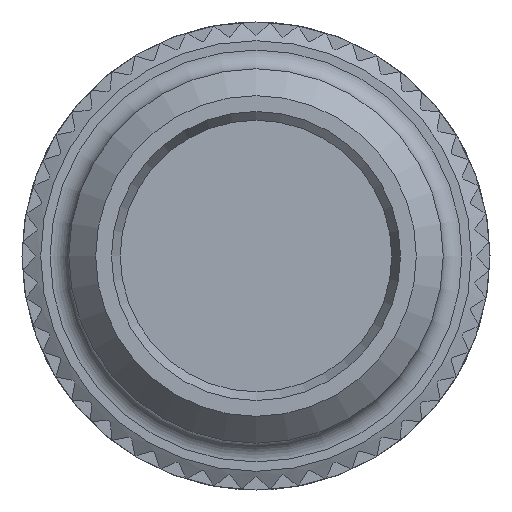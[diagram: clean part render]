
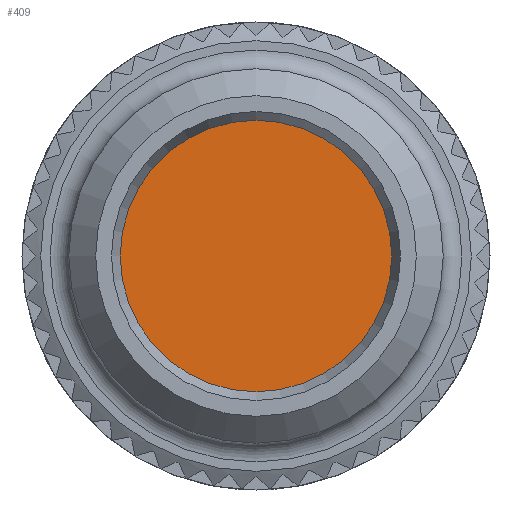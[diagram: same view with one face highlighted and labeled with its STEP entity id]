
A CAD part, left-side view. The second image highlights one B-rep face of the part: STEP entity #409.
In plain terms, the highlighted planar face has unit normal (-1, 0, 0).
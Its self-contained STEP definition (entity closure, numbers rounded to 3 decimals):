
#409 = ADVANCED_FACE( '', ( #1014 ), #1015, .F. );
#1014 = FACE_OUTER_BOUND( '', #1781, .T. );
#1015 = PLANE( '', #1782 );
#1781 = EDGE_LOOP( '', ( #3918 ) );
#1782 = AXIS2_PLACEMENT_3D( '', #3919, #3920, #3921 );
#3918 = ORIENTED_EDGE( '', *, *, #5740, .F. );
#3919 = CARTESIAN_POINT( '', ( 5., 0., 0. ) );
#3920 = DIRECTION( '', ( 1., 0., 0. ) );
#3921 = DIRECTION( '', ( 0., 0., -1. ) );
#5740 = EDGE_CURVE( '', #7196, #7196, #7197, .T. );
#7196 = VERTEX_POINT( '', #11568 );
#7197 = CIRCLE( '', #11569, 2.9 );
#11568 = CARTESIAN_POINT( '', ( 5., 0., -2.9 ) );
#11569 = AXIS2_PLACEMENT_3D( '', #13039, #13040, #13041 );
#13039 = CARTESIAN_POINT( '', ( 5., 0., 0. ) );
#13040 = DIRECTION( '', ( 1., 0., 0. ) );
#13041 = DIRECTION( '', ( 0., 0., -1. ) );
